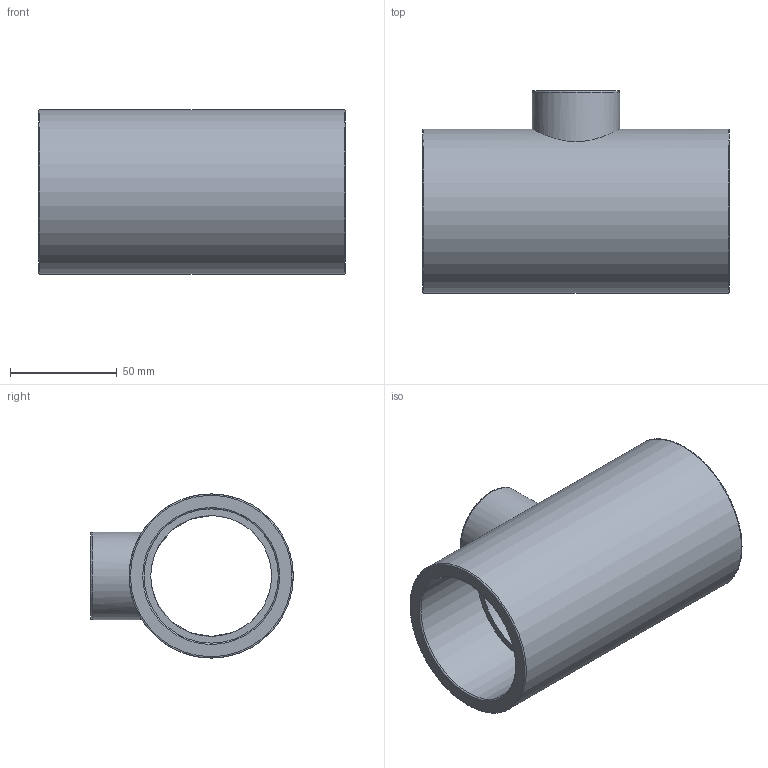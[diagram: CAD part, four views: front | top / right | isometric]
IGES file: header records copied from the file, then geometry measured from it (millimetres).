
Global section: file name: 051400063032.ipt; native system: Autodesk Inventor 2015; preprocessor: unknown; author: KIM; date: 20171207.165222; units: millimetre
Bounding box: 144 x 95 x 77 mm (x, y, z)
Volume: 265172.7 mm3; surface area: 70207.2 mm2
Topology: 1 solids, 1 shells, 19 faces, 58 edges, 44 vertices
Faces by surface type: revolution 11, plane 6, cylinder 2
Full cylindrical faces by diameter (mm): 41 x1, 77 x1
